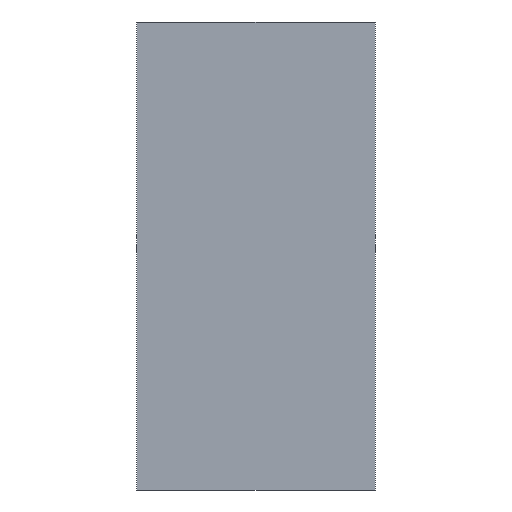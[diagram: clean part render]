
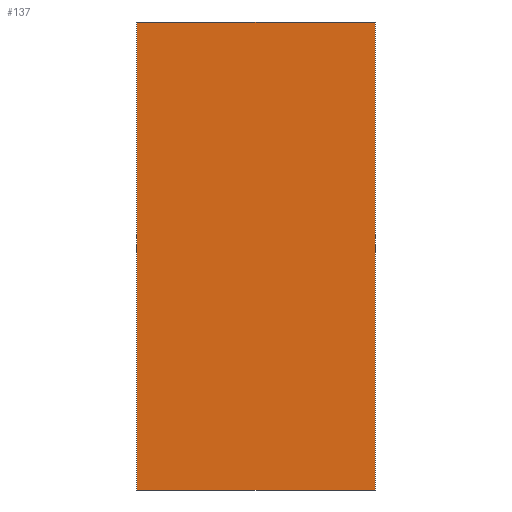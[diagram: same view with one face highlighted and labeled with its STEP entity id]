
A CAD part, front view. The second image highlights one B-rep face of the part: STEP entity #137.
In plain terms, the highlighted planar face has unit normal (0, -1, 0).
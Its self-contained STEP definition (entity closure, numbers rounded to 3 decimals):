
#21 = EDGE_CURVE('',#22,#24,#26,.T.);
#22 = VERTEX_POINT('',#23);
#23 = CARTESIAN_POINT('',(30.,-218.,302.));
#24 = VERTEX_POINT('',#25);
#25 = CARTESIAN_POINT('',(30.,-218.,349.));
#26 = SURFACE_CURVE('',#27,(#31,#43),.PCURVE_S1.);
#27 = LINE('',#28,#29);
#28 = CARTESIAN_POINT('',(30.,-218.,302.));
#29 = VECTOR('',#30,1.);
#30 = DIRECTION('',(0.,0.,1.));
#31 = PCURVE('',#32,#37);
#32 = PLANE('',#33);
#33 = AXIS2_PLACEMENT_3D('',#34,#35,#36);
#34 = CARTESIAN_POINT('',(30.,-218.,302.));
#35 = DIRECTION('',(1.,0.,-0.));
#36 = DIRECTION('',(0.,0.,1.));
#37 = DEFINITIONAL_REPRESENTATION('',(#38),#42);
#38 = LINE('',#39,#40);
#39 = CARTESIAN_POINT('',(0.,0.));
#40 = VECTOR('',#41,1.);
#41 = DIRECTION('',(1.,0.));
#42 = ( GEOMETRIC_REPRESENTATION_CONTEXT(2) 
PARAMETRIC_REPRESENTATION_CONTEXT() REPRESENTATION_CONTEXT('2D SPACE',''
  ) );
#43 = PCURVE('',#44,#49);
#44 = PLANE('',#45);
#45 = AXIS2_PLACEMENT_3D('',#46,#47,#48);
#46 = CARTESIAN_POINT('',(30.,-218.,302.));
#47 = DIRECTION('',(-0.,1.,0.));
#48 = DIRECTION('',(0.,0.,1.));
#49 = DEFINITIONAL_REPRESENTATION('',(#50),#54);
#50 = LINE('',#51,#52);
#51 = CARTESIAN_POINT('',(0.,0.));
#52 = VECTOR('',#53,1.);
#53 = DIRECTION('',(1.,0.));
#54 = ( GEOMETRIC_REPRESENTATION_CONTEXT(2) 
PARAMETRIC_REPRESENTATION_CONTEXT() REPRESENTATION_CONTEXT('2D SPACE',''
  ) );
#72 = PLANE('',#73);
#73 = AXIS2_PLACEMENT_3D('',#74,#75,#76);
#74 = CARTESIAN_POINT('',(30.,-218.,302.));
#75 = DIRECTION('',(0.,0.,1.));
#76 = DIRECTION('',(1.,0.,-0.));
#126 = PLANE('',#127);
#127 = AXIS2_PLACEMENT_3D('',#128,#129,#130);
#128 = CARTESIAN_POINT('',(30.,-218.,349.));
#129 = DIRECTION('',(0.,0.,1.));
#130 = DIRECTION('',(1.,0.,-0.));
#137 = ADVANCED_FACE('',(#138),#44,.F.);
#138 = FACE_BOUND('',#139,.F.);
#139 = EDGE_LOOP('',(#140,#163,#164,#187));
#140 = ORIENTED_EDGE('',*,*,#141,.F.);
#141 = EDGE_CURVE('',#22,#142,#144,.T.);
#142 = VERTEX_POINT('',#143);
#143 = CARTESIAN_POINT('',(54.,-218.,302.));
#144 = SURFACE_CURVE('',#145,(#149,#156),.PCURVE_S1.);
#145 = LINE('',#146,#147);
#146 = CARTESIAN_POINT('',(30.,-218.,302.));
#147 = VECTOR('',#148,1.);
#148 = DIRECTION('',(1.,0.,-0.));
#149 = PCURVE('',#44,#150);
#150 = DEFINITIONAL_REPRESENTATION('',(#151),#155);
#151 = LINE('',#152,#153);
#152 = CARTESIAN_POINT('',(0.,0.));
#153 = VECTOR('',#154,1.);
#154 = DIRECTION('',(0.,1.));
#155 = ( GEOMETRIC_REPRESENTATION_CONTEXT(2) 
PARAMETRIC_REPRESENTATION_CONTEXT() REPRESENTATION_CONTEXT('2D SPACE',''
  ) );
#156 = PCURVE('',#72,#157);
#157 = DEFINITIONAL_REPRESENTATION('',(#158),#162);
#158 = LINE('',#159,#160);
#159 = CARTESIAN_POINT('',(0.,0.));
#160 = VECTOR('',#161,1.);
#161 = DIRECTION('',(1.,0.));
#162 = ( GEOMETRIC_REPRESENTATION_CONTEXT(2) 
PARAMETRIC_REPRESENTATION_CONTEXT() REPRESENTATION_CONTEXT('2D SPACE',''
  ) );
#163 = ORIENTED_EDGE('',*,*,#21,.T.);
#164 = ORIENTED_EDGE('',*,*,#165,.T.);
#165 = EDGE_CURVE('',#24,#166,#168,.T.);
#166 = VERTEX_POINT('',#167);
#167 = CARTESIAN_POINT('',(54.,-218.,349.));
#168 = SURFACE_CURVE('',#169,(#173,#180),.PCURVE_S1.);
#169 = LINE('',#170,#171);
#170 = CARTESIAN_POINT('',(30.,-218.,349.));
#171 = VECTOR('',#172,1.);
#172 = DIRECTION('',(1.,0.,-0.));
#173 = PCURVE('',#44,#174);
#174 = DEFINITIONAL_REPRESENTATION('',(#175),#179);
#175 = LINE('',#176,#177);
#176 = CARTESIAN_POINT('',(47.,0.));
#177 = VECTOR('',#178,1.);
#178 = DIRECTION('',(0.,1.));
#179 = ( GEOMETRIC_REPRESENTATION_CONTEXT(2) 
PARAMETRIC_REPRESENTATION_CONTEXT() REPRESENTATION_CONTEXT('2D SPACE',''
  ) );
#180 = PCURVE('',#126,#181);
#181 = DEFINITIONAL_REPRESENTATION('',(#182),#186);
#182 = LINE('',#183,#184);
#183 = CARTESIAN_POINT('',(0.,0.));
#184 = VECTOR('',#185,1.);
#185 = DIRECTION('',(1.,0.));
#186 = ( GEOMETRIC_REPRESENTATION_CONTEXT(2) 
PARAMETRIC_REPRESENTATION_CONTEXT() REPRESENTATION_CONTEXT('2D SPACE',''
  ) );
#187 = ORIENTED_EDGE('',*,*,#188,.F.);
#188 = EDGE_CURVE('',#142,#166,#189,.T.);
#189 = SURFACE_CURVE('',#190,(#194,#201),.PCURVE_S1.);
#190 = LINE('',#191,#192);
#191 = CARTESIAN_POINT('',(54.,-218.,302.));
#192 = VECTOR('',#193,1.);
#193 = DIRECTION('',(0.,0.,1.));
#194 = PCURVE('',#44,#195);
#195 = DEFINITIONAL_REPRESENTATION('',(#196),#200);
#196 = LINE('',#197,#198);
#197 = CARTESIAN_POINT('',(0.,24.));
#198 = VECTOR('',#199,1.);
#199 = DIRECTION('',(1.,0.));
#200 = ( GEOMETRIC_REPRESENTATION_CONTEXT(2) 
PARAMETRIC_REPRESENTATION_CONTEXT() REPRESENTATION_CONTEXT('2D SPACE',''
  ) );
#201 = PCURVE('',#202,#207);
#202 = PLANE('',#203);
#203 = AXIS2_PLACEMENT_3D('',#204,#205,#206);
#204 = CARTESIAN_POINT('',(54.,-218.,302.));
#205 = DIRECTION('',(1.,0.,-0.));
#206 = DIRECTION('',(0.,0.,1.));
#207 = DEFINITIONAL_REPRESENTATION('',(#208),#212);
#208 = LINE('',#209,#210);
#209 = CARTESIAN_POINT('',(0.,0.));
#210 = VECTOR('',#211,1.);
#211 = DIRECTION('',(1.,0.));
#212 = ( GEOMETRIC_REPRESENTATION_CONTEXT(2) 
PARAMETRIC_REPRESENTATION_CONTEXT() REPRESENTATION_CONTEXT('2D SPACE',''
  ) );
